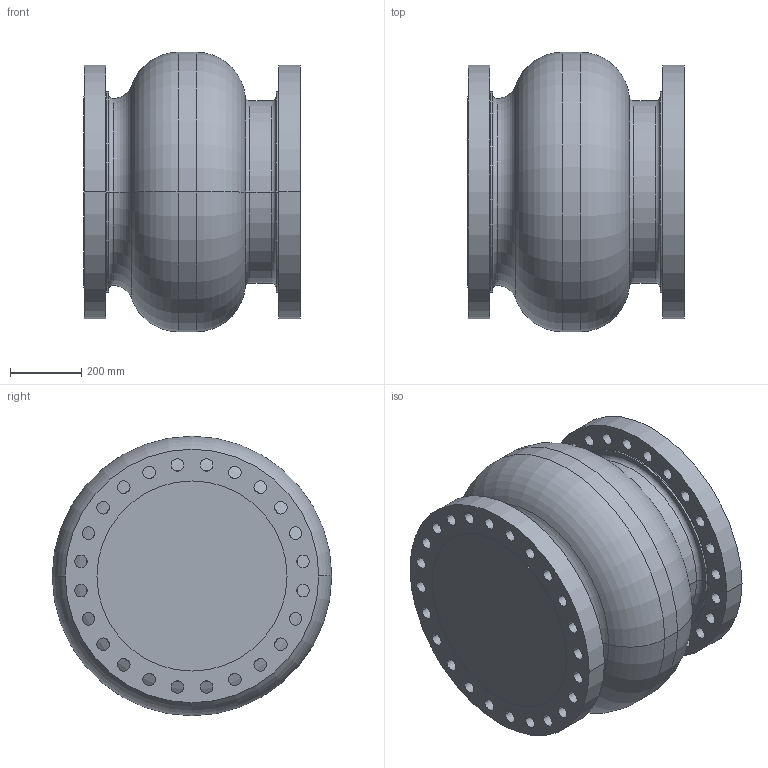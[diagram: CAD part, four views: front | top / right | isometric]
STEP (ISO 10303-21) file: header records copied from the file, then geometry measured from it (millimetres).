
FILE_DESCRIPTION (( 'STEP AP203' ), '1' );
FILE_NAME ('GLC 18 300.STEP', '2019-12-03T19:07:05', ( '' ), ( '' ), 'SwSTEP 2.0', 'SolidWorks 2017', '' );
FILE_SCHEMA (( 'CONFIG_CONTROL_DESIGN' ));
Length unit declared in the file: inch
Products named in the file (1): GLC 18 300
Bounding box: 608.08 x 784.35 x 784.35 mm (x, y, z)
Volume: 219719268.6 mm3; surface area: 2917090.3 mm2
Topology: 1 solids, 1 shells, 137 faces, 368 edges, 236 vertices
Faces by surface type: cylinder 110, torus 18, plane 5, cone 4
Entity records: 4683 total; most frequent: DIRECTION 898, CARTESIAN_POINT 742, ORIENTED_EDGE 736, AXIS2_PLACEMENT_3D 392, EDGE_CURVE 368, CIRCLE 254, VERTEX_POINT 236, EDGE_LOOP 236
